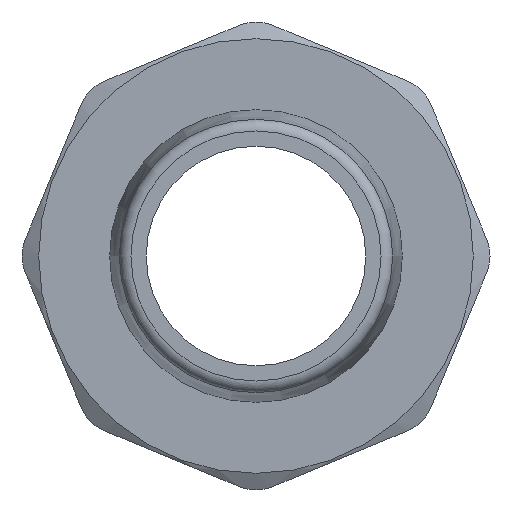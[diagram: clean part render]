
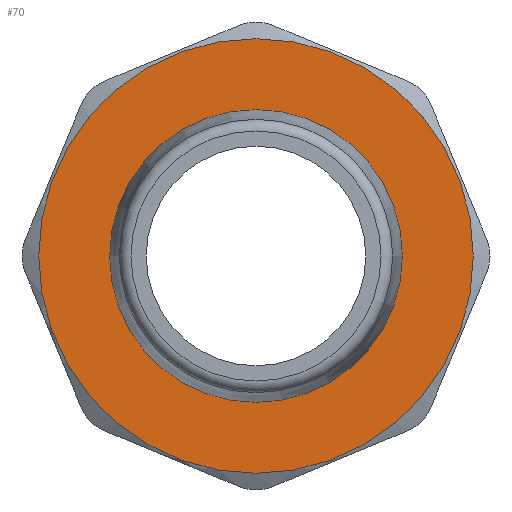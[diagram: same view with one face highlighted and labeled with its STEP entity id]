
A CAD part, front view. The second image highlights one B-rep face of the part: STEP entity #70.
In plain terms, the highlighted planar face has unit normal (0, -1, 0).
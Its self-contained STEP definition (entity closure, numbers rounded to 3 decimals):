
#70=ADVANCED_FACE('',(#283,#285),#287,.F.);
#283=FACE_BOUND('',#284,.T.);
#284=EDGE_LOOP('',(#500));
#285=FACE_BOUND('',#286,.T.);
#286=EDGE_LOOP('',(#501));
#287=PLANE('',#288);
#288=AXIS2_PLACEMENT_3D('',#289,#290,#291);
#289=CARTESIAN_POINT('',(0.,-17.,0.));
#290=DIRECTION('',(0.,1.,0.));
#291=DIRECTION('',(-1.,0.,0.));
#500=ORIENTED_EDGE('',*,*,#582,.T.);
#501=ORIENTED_EDGE('',*,*,#584,.F.);
#582=EDGE_CURVE('',#696,#696,#697,.F.);
#584=EDGE_CURVE('',#700,#700,#701,.T.);
#696=VERTEX_POINT('',#2046);
#697=CIRCLE('',#2047,14.85);
#700=VERTEX_POINT('',#2056);
#701=CIRCLE('',#2057,10.);
#2046=CARTESIAN_POINT('',(14.85,-17.,0.));
#2047=AXIS2_PLACEMENT_3D('',#2048,#2049,#2050);
#2048=CARTESIAN_POINT('',(0.,-17.,0.));
#2049=DIRECTION('',(0.,1.,0.));
#2050=DIRECTION('',(1.,0.,0.));
#2056=CARTESIAN_POINT('',(-10.,-17.,0.));
#2057=AXIS2_PLACEMENT_3D('',#2058,#2059,#2060);
#2058=CARTESIAN_POINT('',(0.,-17.,0.));
#2059=DIRECTION('',(0.,-1.,0.));
#2060=DIRECTION('',(-1.,0.,0.));
